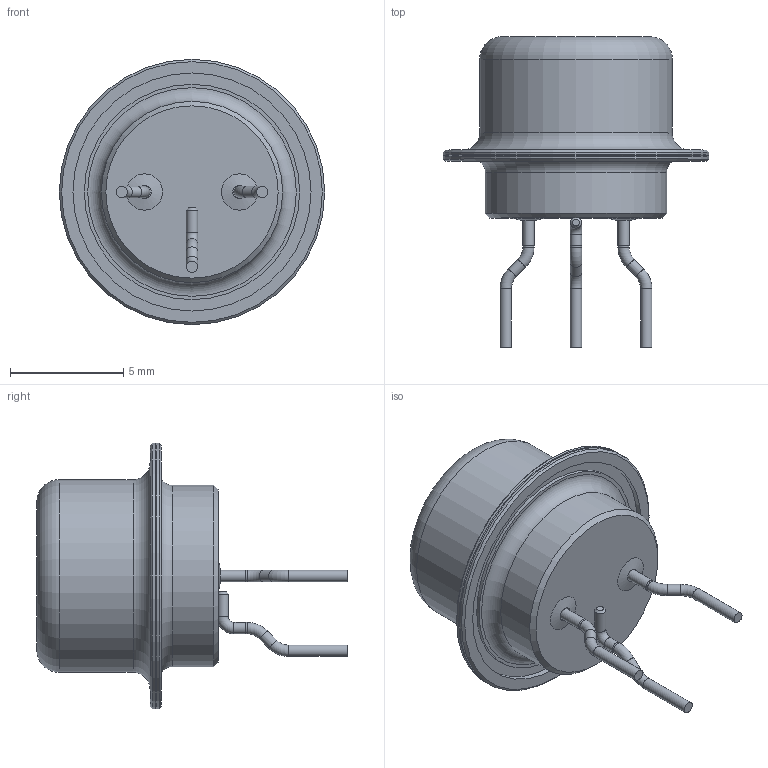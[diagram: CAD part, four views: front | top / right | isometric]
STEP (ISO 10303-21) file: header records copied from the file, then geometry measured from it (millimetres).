
FILE_DESCRIPTION (( 'STEP AP214' ), '1' );
FILE_NAME ('Ï1.49á2.STEP', '2015-07-18T16:51:54', ( 'Michael' ), ( '' ), 'SwSTEP 2.0', 'SolidWorks 2014', '' );
FILE_SCHEMA (( 'AUTOMOTIVE_DESIGN' ));
Length unit declared in the file: millimetre
Products named in the file (6): Ïð.Âûâîä ãíóòûé; Âûâîä ïðÿìîé; ﾂ鏆鮏 肬隆; Âñòàâêà; 扻豵鵨; Ï1.49á2
Assembly tree (9 placements, depth 2):
  Ï1.49á2
    扻豵鵨
    Âñòàâêà  x2
    ﾂ鏆鮏 肬隆
    Âûâîä ïðÿìîé  x2
    Ïð.Âûâîä ãíóòûé  x3
Bounding box: 11.7 x 13.7 x 11.7 mm (x, y, z)
Volume: 460.9 mm3; surface area: 500.4 mm2
Topology: 9 solids, 9 shells, 65 faces, 100 edges, 59 vertices
Faces by surface type: plane 24, cylinder 23, torus 10, cone 8
Full cylindrical faces by diameter (mm): 0.5 x13, 1.6 x4, 8 x1, 8.5 x1, 9.5 x1, 10.5 x1, 11.7 x2
Entity records: 1108 total; most frequent: DIRECTION 190, CARTESIAN_POINT 134, AXIS2_PLACEMENT_3D 95, EDGE_LOOP 78, ORIENTED_EDGE 78, FACE_OUTER_BOUND 65, ADVANCED_FACE 44, EDGE_CURVE 39
